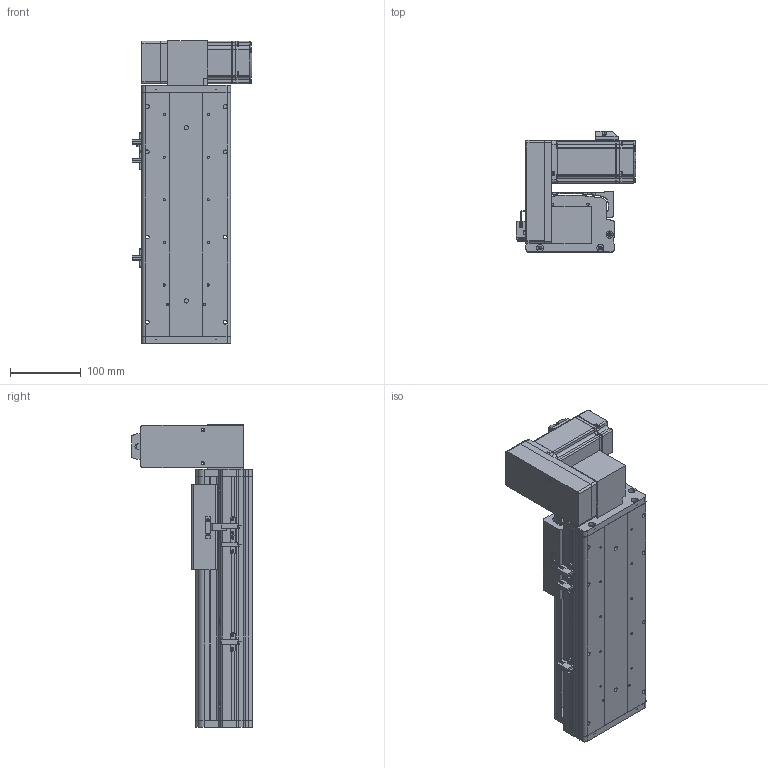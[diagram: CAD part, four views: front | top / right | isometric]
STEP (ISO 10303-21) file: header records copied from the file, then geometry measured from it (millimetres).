
FILE_DESCRIPTION (( 'STEP AP214' ), '1' );
FILE_NAME ('KSD125B-S150-MRU-CM.STEP', '2017-10-21T07:18:15', ( '微软用户' ), ( '微软中国' ), 'SwSTEP 2.0', 'SolidWorks 2014', '' );
FILE_SCHEMA (( 'AUTOMOTIVE_DESIGN' ));
Length unit declared in the file: millimetre
Products named in the file (17): KSD125模组同步带-滑动座1; KSD125B-S150-MRU-CM; 悵誘欶奻狟殏; HTPA30S3M150_A_H6_a佪裝蚚; HTPA30S3M150_A_H6_a萇儂蚚; 100宽马达安装板连板上下折丝杆同步带; KSD125模组150行程同步带-防尘盖; 125模组150行程同步带-底板; MHMD042G1CA_2_03; KSD125模组同步带-防撞垫2; 覜茼え68遵圉猾敕; U倰嫖萇假蚾璃; U倰嫖萇EEㄜSX672; KSD125模组同步带-防撞垫1; 100宽马达安装板同步带右; 前端板-125宽模组同步带; 125模组同步带-尾端板1
Assembly tree (20 placements, depth 2):
  KSD125B-S150-MRU-CM
    KSD125模组同步带-滑动座1
    125模组同步带-尾端板1
    前端板-125宽模组同步带
    100宽马达安装板同步带右
    KSD125模组同步带-防撞垫1
    U倰嫖萇EEㄜSX672  x3
    U倰嫖萇假蚾璃  x3
    覜茼え68遵圉猾敕
    KSD125模组同步带-防撞垫2
    MHMD042G1CA_2_03
    125模组150行程同步带-底板
    KSD125模组150行程同步带-防尘盖
    100宽马达安装板连板上下折丝杆同步带
    HTPA30S3M150_A_H6_a萇儂蚚
    HTPA30S3M150_A_H6_a佪裝蚚
    悵誘欶奻狟殏
Bounding box: 168.7 x 170.5 x 427 mm (x, y, z)
Volume: 1655410 mm3; surface area: 606462.7 mm2
Topology: 19 solids, 22 shells, 2195 faces, 6349 edges, 4194 vertices
Faces by surface type: cylinder 1352, plane 716, cone 105, bspline 22
Entity records: 77459 total; most frequent: CARTESIAN_POINT 15363, DIRECTION 12058, ORIENTED_EDGE 11218, EDGE_CURVE 5687, AXIS2_PLACEMENT_3D 4641, VERTEX_POINT 3786, VECTOR 2776, LINE 2776
